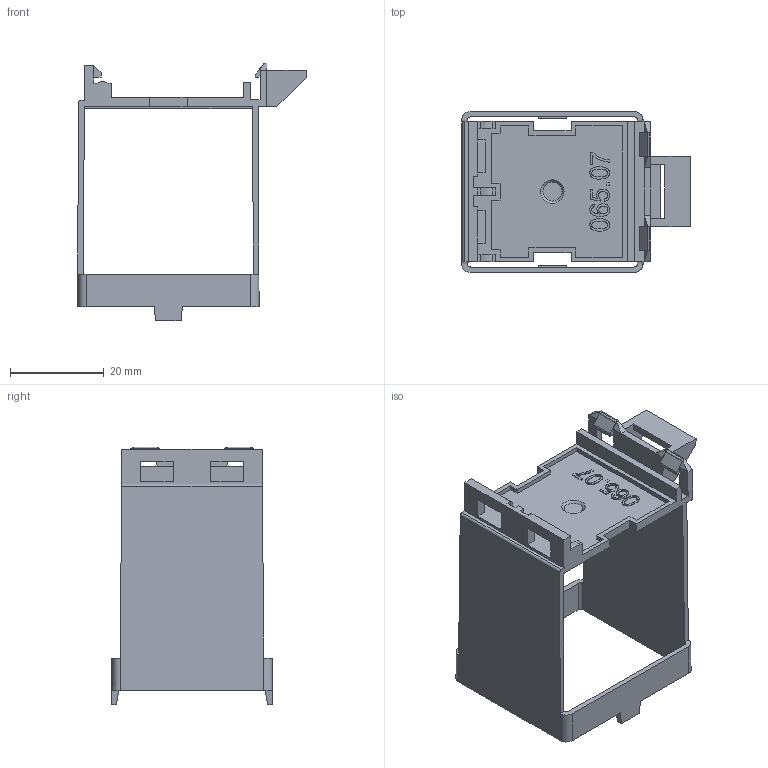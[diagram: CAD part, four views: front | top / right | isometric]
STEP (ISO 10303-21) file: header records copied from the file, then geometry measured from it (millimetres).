
FILE_DESCRIPTION( ( 'Unknown' ), '1' );
FILE_NAME( 'H:/Disegni/Lavori in sospeso/Catalogo/65 accessori/Carla catalogo/165783.stp', 'Unknown', ( 'Unknown' ), ( 'Unknown' ), 'PSStep 15.0.49', 'Unknown', ' ' );
FILE_SCHEMA( ( 'AUTOMOTIVE_DESIGN { 1 0 10303 214 1 1 1 1 }' ) );
Length unit declared in the file: millimetre
Products named in the file (1): top
Bounding box: 48.8 x 34.33 x 55 mm (x, y, z)
Surface area: 11051.2 mm2 (no closed solid volume)
Topology: 0 solids, 287 shells, 287 faces, 1676 edges, 1675 vertices
Faces by surface type: plane 188, cylinder 75, extrusion 23, cone 1
Entity records: 18594 total; most frequent: CARTESIAN_POINT 4149, DIRECTION 2399, ORIENTED_EDGE 1675, EDGE_CURVE 1675, VERTEX_POINT 1675, VECTOR 1259, LINE 1236, AXIS2_PLACEMENT_3D 570
